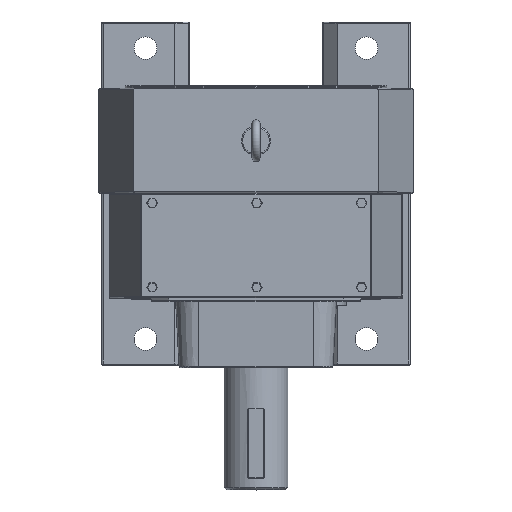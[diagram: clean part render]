
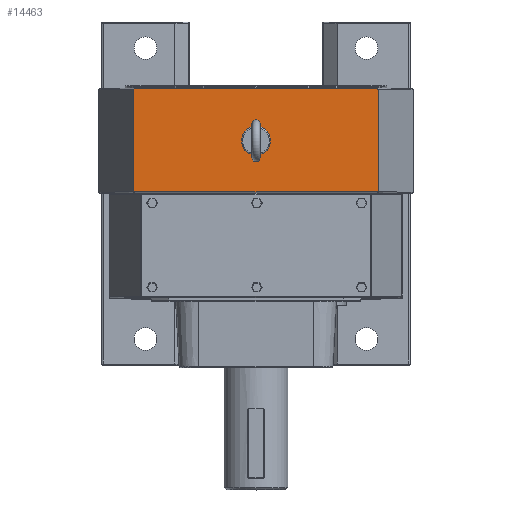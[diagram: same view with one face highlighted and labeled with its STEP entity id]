
A CAD part, top view. The second image highlights one B-rep face of the part: STEP entity #14463.
In plain terms, the highlighted planar face has unit normal (0, 0, 1).
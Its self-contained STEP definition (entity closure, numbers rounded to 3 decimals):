
#5690=CARTESIAN_POINT('',(25.,90.,565.0));
#5691=VERTEX_POINT('',#5690);
#5692=CARTESIAN_POINT('',(0.,90.,565.0));
#5693=DIRECTION('',(0.0,0.0,-1.));
#5694=DIRECTION('',(0.707,0.707,0.0));
#5695=AXIS2_PLACEMENT_3D('',#5692,#5693,#5694);
#5696=CIRCLE('',#5695,25.);
#5697=EDGE_CURVE('',#5691,#5691,#5696,.F.);
#7165=CARTESIAN_POINT('',(-210.0,178.,565.));
#7166=VERTEX_POINT('',#7165);
#7167=CARTESIAN_POINT('',(-207.782,180.,565.));
#7168=VERTEX_POINT('',#7167);
#7169=CARTESIAN_POINT('',(-207.782,178.,565.));
#7170=DIRECTION('',(0.0,0.0,-1.0));
#7171=DIRECTION('',(-1.0,0.0,0.0));
#7172=AXIS2_PLACEMENT_3D('',#7169,#7170,#7171);
#7173=ELLIPSE('',#7172,2.218,2.);
#7174=EDGE_CURVE('',#7166,#7168,#7173,.T.);
#7412=CARTESIAN_POINT('',(207.782,180.,565.));
#7413=VERTEX_POINT('',#7412);
#7414=CARTESIAN_POINT('',(207.782,180.,565.0));
#7415=DIRECTION('',(-1.0,0.0,0.0));
#7416=VECTOR('',#7415,415.563);
#7417=LINE('',#7414,#7416);
#7418=EDGE_CURVE('',#7413,#7168,#7417,.T.);
#7669=CARTESIAN_POINT('',(210.0,178.,565.));
#7670=VERTEX_POINT('',#7669);
#7671=CARTESIAN_POINT('',(207.782,178.,565.));
#7672=DIRECTION('',(0.0,0.0,-1.0));
#7673=DIRECTION('',(1.0,0.0,0.0));
#7674=AXIS2_PLACEMENT_3D('',#7671,#7672,#7673);
#7675=ELLIPSE('',#7674,2.218,2.);
#7676=EDGE_CURVE('',#7413,#7670,#7675,.T.);
#7903=CARTESIAN_POINT('',(-210.0,2.0,565.));
#7904=VERTEX_POINT('',#7903);
#7935=CARTESIAN_POINT('',(210.0,2.,565.));
#7936=VERTEX_POINT('',#7935);
#7944=CARTESIAN_POINT('',(210.0,2.,565.));
#7945=DIRECTION('',(-1.0,0.0,0.0));
#7946=VECTOR('',#7945,420.0);
#7947=LINE('',#7944,#7946);
#7948=EDGE_CURVE('',#7936,#7904,#7947,.T.);
#14437=CARTESIAN_POINT('',(0.0,0.0,565.0));
#14438=DIRECTION('',(0.0,0.0,1.0));
#14439=DIRECTION('',(1.0,0.0,0.0));
#14440=AXIS2_PLACEMENT_3D('',#14437,#14438,#14439);
#14441=PLANE('',#14440);
#14442=ORIENTED_EDGE('',*,*,#7174,.F.);
#14443=CARTESIAN_POINT('',(-210.0,2.0,565.));
#14444=DIRECTION('',(0.0,1.0,0.0));
#14445=VECTOR('',#14444,176.);
#14446=LINE('',#14443,#14445);
#14447=EDGE_CURVE('',#7904,#7166,#14446,.T.);
#14448=ORIENTED_EDGE('',*,*,#14447,.F.);
#14449=ORIENTED_EDGE('',*,*,#7948,.F.);
#14450=CARTESIAN_POINT('',(210.0,2.,565.));
#14451=DIRECTION('',(0.0,1.0,0.0));
#14452=VECTOR('',#14451,176.);
#14453=LINE('',#14450,#14452);
#14454=EDGE_CURVE('',#7936,#7670,#14453,.T.);
#14455=ORIENTED_EDGE('',*,*,#14454,.T.);
#14456=ORIENTED_EDGE('',*,*,#7676,.F.);
#14457=ORIENTED_EDGE('',*,*,#7418,.T.);
#14458=EDGE_LOOP('',(#14442,#14448,#14449,#14455,#14456,#14457));
#14459=FACE_OUTER_BOUND('',#14458,.T.);
#14460=ORIENTED_EDGE('',*,*,#5697,.F.);
#14461=EDGE_LOOP('',(#14460));
#14462=FACE_BOUND('',#14461,.T.);
#14463=ADVANCED_FACE('',(#14459,#14462),#14441,.T.);
